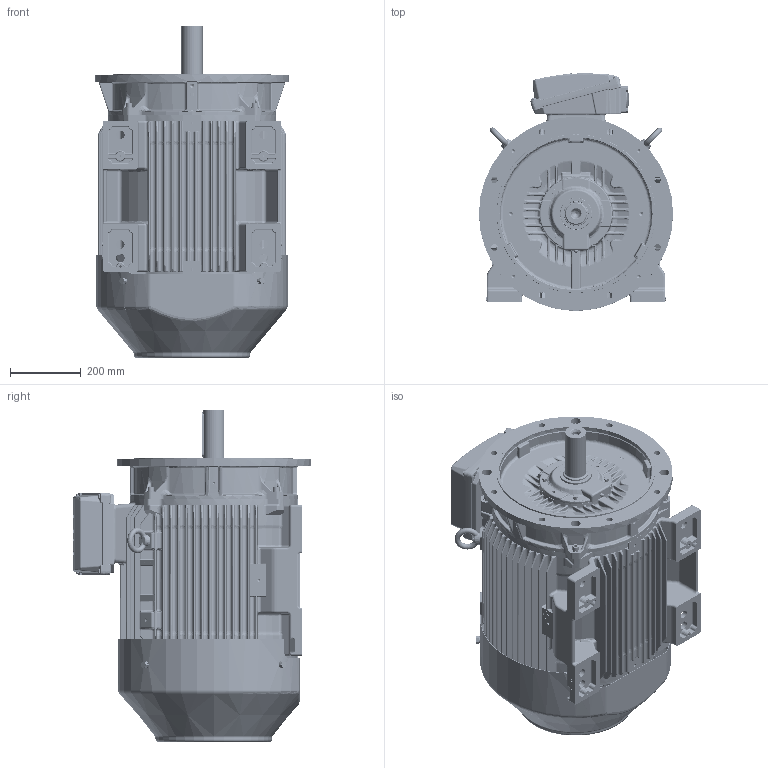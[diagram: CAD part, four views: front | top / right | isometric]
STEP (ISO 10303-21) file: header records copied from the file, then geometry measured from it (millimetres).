
FILE_DESCRIPTION (( 'STEP AP203' ), '1' );
FILE_NAME ('0225000375_RevB.STEP', '2019-05-16T09:03:19', ( '' ), ( '' ), 'SwSTEP 2.0', 'SolidWorks 2015', '' );
FILE_SCHEMA (( 'CONFIG_CONTROL_DESIGN' ));
Length unit declared in the file: inch
Products named in the file (1): 0225000375_RevB
Bounding box: 550 x 673.06 x 940.5 mm (x, y, z)
Volume: 34232867 mm3; surface area: 6573485.7 mm2
Topology: 75 solids, 76 shells, 13381 faces, 33216 edges, 19632 vertices
Faces by surface type: cylinder 4138, bspline 3796, plane 2360, torus 1552, cone 1164, sphere 371
Entity records: 548511 total; most frequent: CARTESIAN_POINT 258463, ORIENTED_EDGE 65316, DIRECTION 56353, EDGE_CURVE 32658, AXIS2_PLACEMENT_3D 23611, VERTEX_POINT 19565, EDGE_LOOP 14457, CIRCLE 14025
